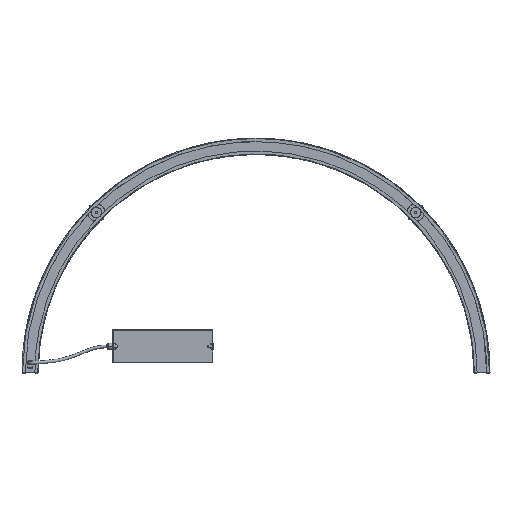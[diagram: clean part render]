
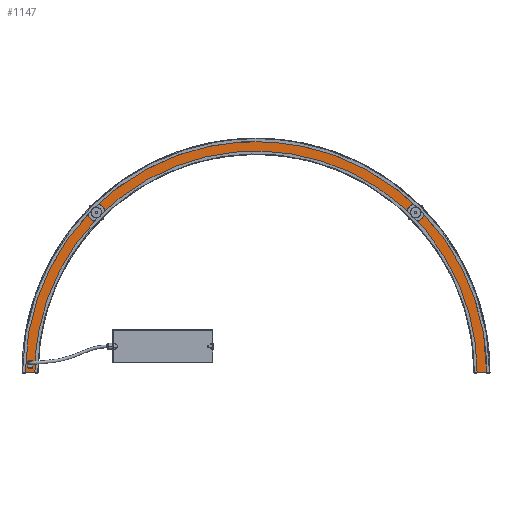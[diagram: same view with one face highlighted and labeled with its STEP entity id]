
A CAD part, top view. The second image highlights one B-rep face of the part: STEP entity #1147.
In plain terms, the highlighted planar face has unit normal (0, 0, 1).
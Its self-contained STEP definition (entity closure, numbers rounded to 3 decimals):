
#176=FACE_BOUND('',#3569,.T.);
#1147=ADVANCED_FACE('',(#2341,#176),#17919,.T.);
#2341=FACE_OUTER_BOUND('',#3568,.T.);
#3568=EDGE_LOOP('',(#7863,#7864,#7865,#7866));
#3569=EDGE_LOOP('',(#7867,#7868));
#7863=ORIENTED_EDGE('',*,*,#11985,.T.);
#7864=ORIENTED_EDGE('',*,*,#11988,.T.);
#7865=ORIENTED_EDGE('',*,*,#11984,.T.);
#7866=ORIENTED_EDGE('',*,*,#11980,.F.);
#7867=ORIENTED_EDGE('',*,*,#12073,.T.);
#7868=ORIENTED_EDGE('',*,*,#11449,.T.);
#11449=EDGE_CURVE('',#16748,#16747,#15045,.T.);
#11980=EDGE_CURVE('',#17080,#17081,#15368,.T.);
#11984=EDGE_CURVE('',#17083,#17081,#13994,.T.);
#11985=EDGE_CURVE('',#17080,#17082,#13995,.T.);
#11988=EDGE_CURVE('',#17082,#17083,#15371,.T.);
#12073=EDGE_CURVE('',#16747,#16748,#15430,.T.);
#13994=B_SPLINE_CURVE_WITH_KNOTS('',1,(#49184,#49185),.UNSPECIFIED.,.F.,
 .F.,(2,2),(0.,30.2),.UNSPECIFIED.);
#13995=B_SPLINE_CURVE_WITH_KNOTS('',1,(#49186,#49187),.UNSPECIFIED.,.F.,
 .F.,(2,2),(0.,30.2),.UNSPECIFIED.);
#15045=(
BOUNDED_CURVE()
B_SPLINE_CURVE(2,(#47591,#47592,#47593,#47594,#47595),.UNSPECIFIED.,.F.,
 .F.)
B_SPLINE_CURVE_WITH_KNOTS((3,2,3),(-15.708,-7.854,
0.),.UNSPECIFIED.)
CURVE()
GEOMETRIC_REPRESENTATION_ITEM()
RATIONAL_B_SPLINE_CURVE((1.,0.707,1.,0.707,1.))
REPRESENTATION_ITEM('')
);
#15368=(
BOUNDED_CURVE()
B_SPLINE_CURVE(2,(#49170,#49171,#49172,#49173,#49174),.UNSPECIFIED.,.F.,
 .F.)
B_SPLINE_CURVE_WITH_KNOTS((3,2,3),(0.,734.583,1469.166),
 .UNSPECIFIED.)
CURVE()
GEOMETRIC_REPRESENTATION_ITEM()
RATIONAL_B_SPLINE_CURVE((1.,0.707,1.,0.707,1.))
REPRESENTATION_ITEM('')
);
#15371=(
BOUNDED_CURVE()
B_SPLINE_CURVE(2,(#49195,#49196,#49197,#49198,#49199),.UNSPECIFIED.,.F.,
 .F.)
B_SPLINE_CURVE_WITH_KNOTS((3,2,3),(-1564.042,-782.021,
0.),.UNSPECIFIED.)
CURVE()
GEOMETRIC_REPRESENTATION_ITEM()
RATIONAL_B_SPLINE_CURVE((1.,0.707,1.,0.707,1.))
REPRESENTATION_ITEM('')
);
#15430=(
BOUNDED_CURVE()
B_SPLINE_CURVE(2,(#49458,#49459,#49460,#49461,#49462),.UNSPECIFIED.,.F.,
 .F.)
B_SPLINE_CURVE_WITH_KNOTS((3,2,3),(-15.708,-7.854,
0.),.UNSPECIFIED.)
CURVE()
GEOMETRIC_REPRESENTATION_ITEM()
RATIONAL_B_SPLINE_CURVE((1.,0.707,1.,0.707,1.))
REPRESENTATION_ITEM('')
);
#16747=VERTEX_POINT('',#46858);
#16748=VERTEX_POINT('',#46859);
#17080=VERTEX_POINT('',#47191);
#17081=VERTEX_POINT('',#47192);
#17082=VERTEX_POINT('',#47193);
#17083=VERTEX_POINT('',#47194);
#17919=PLANE('',#19001);
#19001=AXIS2_PLACEMENT_3D('',#45330,#19497,$);
#19497=DIRECTION('',(0.,0.,1.));
#45330=CARTESIAN_POINT('',(-597.42,269.915,92.376));
#46858=CARTESIAN_POINT('',(-482.361,-253.346,92.376));
#46859=CARTESIAN_POINT('',(-482.361,-263.346,92.376));
#47191=CARTESIAN_POINT('',(467.65,-277.72,92.376));
#47192=CARTESIAN_POINT('',(-467.65,-277.72,92.376));
#47193=CARTESIAN_POINT('',(497.85,-277.72,92.376));
#47194=CARTESIAN_POINT('',(-497.85,-277.72,92.376));
#47591=CARTESIAN_POINT('',(-482.361,-263.346,92.376));
#47592=CARTESIAN_POINT('',(-487.361,-263.346,92.376));
#47593=CARTESIAN_POINT('',(-487.361,-258.346,92.376));
#47594=CARTESIAN_POINT('',(-487.361,-253.346,92.376));
#47595=CARTESIAN_POINT('',(-482.361,-253.346,92.376));
#49170=CARTESIAN_POINT('',(467.65,-277.72,92.376));
#49171=CARTESIAN_POINT('',(467.65,189.93,92.376));
#49172=CARTESIAN_POINT('',(0.,189.93,92.376));
#49173=CARTESIAN_POINT('',(-467.65,189.93,92.376));
#49174=CARTESIAN_POINT('',(-467.65,-277.72,92.376));
#49184=CARTESIAN_POINT('',(-497.85,-277.72,92.376));
#49185=CARTESIAN_POINT('',(-467.65,-277.72,92.376));
#49186=CARTESIAN_POINT('',(467.65,-277.72,92.376));
#49187=CARTESIAN_POINT('',(497.85,-277.72,92.376));
#49195=CARTESIAN_POINT('',(497.85,-277.72,92.376));
#49196=CARTESIAN_POINT('',(497.85,220.13,92.376));
#49197=CARTESIAN_POINT('',(0.,220.13,92.376));
#49198=CARTESIAN_POINT('',(-497.85,220.13,92.376));
#49199=CARTESIAN_POINT('',(-497.85,-277.72,92.376));
#49458=CARTESIAN_POINT('',(-482.361,-253.346,92.376));
#49459=CARTESIAN_POINT('',(-477.361,-253.346,92.376));
#49460=CARTESIAN_POINT('',(-477.361,-258.346,92.376));
#49461=CARTESIAN_POINT('',(-477.361,-263.346,92.376));
#49462=CARTESIAN_POINT('',(-482.361,-263.346,92.376));
